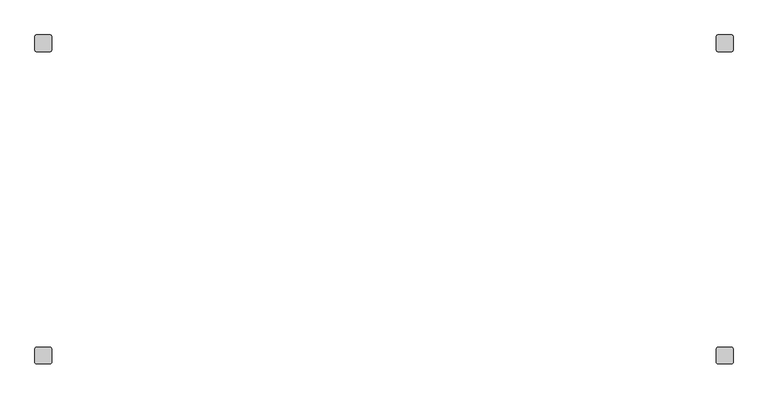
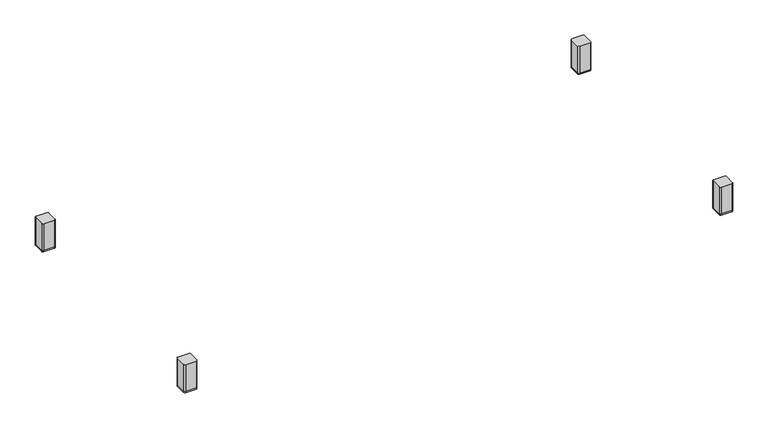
"""IFC4 building model written with IfcOpenShell, lengths in millimetres: furniture geometry, SmithSystem_AM_Storage_Education_Constellate_Stacking_DoubleMidCluster : Upper Shelves + Lower Cubbies."""

import ifcopenshell
import ifcopenshell.guid

model = None  # the IFC model being written
_history = None  # IfcOwnerHistory: only IFC2X3 demands one
_inside = {}  # id of a spatial element -> (the spatial element, [elements in it])
_under = {}  # id of a project, library or spatial element -> (it, [spatial elements below it])
_declared = {}  # id of a project -> (the project, [libraries it declares])
_typed = {}  # id of a type object -> (the type object, [elements of that type])
_made_of = {}  # id of a material, layer set ... -> (it, [elements and type objects made of it])


def new_model(schema):
    """Start an empty IFC model of exactly this schema.

    Asked for "IFC4X3", IfcOpenShell would pick the latest addendum, in which some entities
    have other attributes; the version numbers below select the first issue.
    IFC2X3 requires an IfcOwnerHistory on every rooted entity: one is made here for all.
    """
    global model, _history
    if schema == "IFC4X3":
        model = ifcopenshell.file(schema_version=(4, 3, 0, 0))
    else:
        model = ifcopenshell.file(schema=schema)
    _inside.clear()
    _under.clear()
    _declared.clear()
    _typed.clear()
    _made_of.clear()
    _history = None
    if model.schema == "IFC2X3":
        org = make("IfcOrganization", Name="unknown")
        user = make(
            "IfcPersonAndOrganization",
            ThePerson=make("IfcPerson", FamilyName="unknown"),
            TheOrganization=org,
        )
        app = make(
            "IfcApplication",
            ApplicationDeveloper=org,
            Version="unknown",
            ApplicationFullName="unknown",
            ApplicationIdentifier="unknown",
        )
        _history = make(
            "IfcOwnerHistory",
            OwningUser=user,
            OwningApplication=app,
            ChangeAction="ADDED",
            CreationDate=0,
        )
    return model


def make(cls, **values):
    """One entity of the class cls with the attributes given. An attribute that is None is left unset."""
    return model.create_entity(
        cls, **{name: value for name, value in values.items() if value is not None}
    )


def rooted(cls, **values):
    """An entity with a GlobalId (a new one), such as an element, a storey or a relation."""
    return make(cls, GlobalId=ifcopenshell.guid.new(), OwnerHistory=_history, **values)


def si_unit(unit_type, name, prefix=None):
    """IfcSIUnit, for example si_unit("LENGTHUNIT", "METRE", prefix="MILLI")."""
    return make("IfcSIUnit", UnitType=unit_type, Prefix=prefix, Name=name)


def assignment(units):
    """IfcUnitAssignment: the units of a project."""
    return None if units is None else make("IfcUnitAssignment", Units=units)


def point(xyz):
    """IfcCartesianPoint."""
    return None if xyz is None else make("IfcCartesianPoint", Coordinates=xyz)


def direction(xyz):
    """IfcDirection."""
    return None if xyz is None else make("IfcDirection", DirectionRatios=xyz)


def frame(location, z_axis=None, x_axis=None):
    """IfcAxis2Placement3D, a coordinate frame: its origin and axes. An axis left out is left unset."""
    return make(
        "IfcAxis2Placement3D",
        Location=point(location),
        Axis=direction(z_axis),
        RefDirection=direction(x_axis),
    )


def frame_2d(location, x_axis=None):
    """IfcAxis2Placement2D, a coordinate frame in the plane: its origin and x axis."""
    return make(
        "IfcAxis2Placement2D", Location=point(location), RefDirection=direction(x_axis)
    )


def origin():
    """The frame at (0, 0, 0) with its axes left unset."""
    return frame((0.0, 0.0, 0.0))


def origin_with_axes():
    """The frame at (0, 0, 0) with the z axis (0, 0, 1) and the x axis (1, 0, 0) written out."""
    return frame((0.0, 0.0, 0.0), z_axis=(0.0, 0.0, 1.0), x_axis=(1.0, 0.0, 0.0))


def place(relative_to, where):
    """IfcLocalPlacement: puts the frame where relative to a parent placement (None: the world)."""
    return make(
        "IfcLocalPlacement", PlacementRelTo=relative_to, RelativePlacement=where
    )


def context(
    kind, dimensions, precision=None, world=None, true_north=None, identifier=None
):
    """IfcGeometricRepresentationContext, for example the 3D "Model" context."""
    return make(
        "IfcGeometricRepresentationContext",
        ContextIdentifier=identifier,
        ContextType=kind,
        CoordinateSpaceDimension=dimensions,
        Precision=precision,
        WorldCoordinateSystem=world,
        TrueNorth=true_north,
    )


def project(units=None, contexts=None):
    """IfcProject with its units and contexts."""
    return rooted(
        "IfcProject",
        Name="project",
        RepresentationContexts=contexts,
        UnitsInContext=assignment(units),
    )


def spatial(cls, under=None, at=None, **own):
    """A site, building, storey or space (cls), placed at a placement, below another one or the project."""
    s = rooted(cls, ObjectPlacement=at, **own)
    if under is not None:
        _under.setdefault(under.id(), (under, []))[1].append(s)
    return s


def polyline(points):
    """IfcPolyline through the points."""
    return make("IfcPolyline", Points=[point(p) for p in points])


def circle_curve(where, radius):
    """IfcCircle in the frame where."""
    return make("IfcCircle", Position=where, Radius=radius)


def trimmed(basis, trim1, trim2, sense, master):
    """IfcTrimmedCurve: the piece of a basis curve between two trims."""
    return make(
        "IfcTrimmedCurve",
        BasisCurve=basis,
        Trim1=trim1,
        Trim2=trim2,
        SenseAgreement=sense,
        MasterRepresentation=master,
    )


def segment(curve, same_sense, transition):
    """IfcCompositeCurveSegment."""
    return make(
        "IfcCompositeCurveSegment",
        Transition=transition,
        SameSense=same_sense,
        ParentCurve=curve,
    )


def composite_curve(segments, self_intersect=None):
    """IfcCompositeCurve: segments joined end to end."""
    return make("IfcCompositeCurve", Segments=segments, SelfIntersect=self_intersect)


def outline(outer, holes=None, kind="AREA"):
    """IfcArbitraryClosedProfileDef: a profile drawn as a closed curve; with holes, ...WithVoids."""
    if holes is None:
        return make("IfcArbitraryClosedProfileDef", ProfileType=kind, OuterCurve=outer)
    return make(
        "IfcArbitraryProfileDefWithVoids",
        ProfileType=kind,
        OuterCurve=outer,
        InnerCurves=holes,
    )


def extrude(swept, where, along, depth):
    """IfcExtrudedAreaSolid: the profile swept, set in the frame where, extruded along a direction by depth."""
    return make(
        "IfcExtrudedAreaSolid",
        SweptArea=swept,
        Position=where,
        ExtrudedDirection=direction(along),
        Depth=depth,
    )


def shape(context_of_items, identifier, shape_type, items):
    """IfcShapeRepresentation: the items that make up one representation, for example the "Body"."""
    return make(
        "IfcShapeRepresentation",
        ContextOfItems=context_of_items,
        RepresentationIdentifier=identifier,
        RepresentationType=shape_type,
        Items=items,
    )


def source(mapping_origin, context_of_items, identifier, shape_type, items):
    """IfcRepresentationMap: a shape defined once, which mapped items show again and again."""
    return make(
        "IfcRepresentationMap",
        MappingOrigin=mapping_origin,
        MappedRepresentation=shape(context_of_items, identifier, shape_type, items),
    )


def transform(
    local_origin,
    x_axis=None,
    y_axis=None,
    z_axis=None,
    scale=None,
    scale2=None,
    scale3=None,
    uniform=True,
):
    """IfcCartesianTransformationOperator3D, or its non-uniform kind. x_axis, y_axis, z_axis: its Axis1, 2, 3."""
    if uniform:
        return make(
            "IfcCartesianTransformationOperator3D",
            Axis1=direction(x_axis),
            Axis2=direction(y_axis),
            LocalOrigin=point(local_origin),
            Scale=scale,
            Axis3=direction(z_axis),
        )
    return make(
        "IfcCartesianTransformationOperator3DnonUniform",
        Axis1=direction(x_axis),
        Axis2=direction(y_axis),
        LocalOrigin=point(local_origin),
        Scale=scale,
        Axis3=direction(z_axis),
        Scale2=scale2,
        Scale3=scale3,
    )


def mapped(mapping_source, mapping_target):
    """IfcMappedItem: shows the shape of a source again, moved by a transform."""
    return make(
        "IfcMappedItem", MappingSource=mapping_source, MappingTarget=mapping_target
    )


def made_of(thing, what):
    """Note that an element or type object is made of a material, layer set ...; save() writes the relation."""
    if what is not None:
        _made_of.setdefault(what.id(), (what, []))[1].append(thing)
    return thing


def element(
    cls,
    number,
    at=None,
    inside=None,
    cuts=None,
    type_object=None,
    material=None,
    context=None,
    identifier="Body",
    shape_type=None,
    held_by="IfcProductDefinitionShape",
    body=None,
    shapes=None,
    **own,
):
    """One element of the class cls, such as IfcWall. Its Tag is "e" and its number.

    at: its placement. inside: the storey or other place that contains it. cuts: it is an
    opening in that element (IfcRelVoidsElement). A single representation is given by context,
    identifier, shape_type and body (its items); several are given by shapes. held_by: the class
    of the entity that holds the representations. save() writes the other relations.
    """
    e = rooted(cls, Tag="e%d" % number, ObjectPlacement=at, **own)
    if body is not None:
        shapes = [shape(context, identifier, shape_type, body)]
    if shapes is not None:
        e.Representation = make(held_by, Representations=shapes)
    if inside is not None:
        _inside.setdefault(inside.id(), (inside, []))[1].append(e)
    if cuts is not None:
        rooted(
            "IfcRelVoidsElement", RelatingBuildingElement=cuts, RelatedOpeningElement=e
        )
    if type_object is not None:
        _typed.setdefault(type_object.id(), (type_object, []))[1].append(e)
    return made_of(e, material)


def aggregate(whole, parts):
    """IfcRelAggregates: a whole, such as a stair, and the parts it consists of."""
    return rooted("IfcRelAggregates", RelatingObject=whole, RelatedObjects=parts)


def save(model, path):
    """Write the relations noted so far, then the file.

    IfcRelAggregates (storeys below a building ...), IfcRelContainedInSpatialStructure (elements
    in a storey), IfcRelDefinesByType, IfcRelAssociatesMaterial and IfcRelDeclares: one each for
    every whole, place, type object, material and project.
    """
    for whole, parts in _under.values():
        aggregate(whole, parts)
    for where, things in _inside.values():
        rooted(
            "IfcRelContainedInSpatialStructure",
            RelatedElements=things,
            RelatingStructure=where,
        )
    for kind, things in _typed.values():
        rooted("IfcRelDefinesByType", RelatedObjects=things, RelatingType=kind)
    for what, things in _made_of.values():
        rooted("IfcRelAssociatesMaterial", RelatedObjects=things, RelatingMaterial=what)
    for by, libraries in _declared.values():
        rooted("IfcRelDeclares", RelatingContext=by, RelatedDefinitions=libraries)
    model.write(path)


def furniture_9f49ae1a(model_context):
    return source(origin(), model_context, "Body", "SweptSolid", [
        extrude(outline(composite_curve([segment(polyline([(-528.32, -223.52), (-508.0, -223.52)]), True, "CONTINUOUS"), segment(trimmed(circle_curve(frame_2d((-508.0, -226.06)), 2.54), [point((-508.0, -223.52))], [point((-505.46, -226.06))], False, "CARTESIAN"), True, "CONTINUOUS"), segment(polyline([(-505.46, -226.06), (-505.46, -246.38)]), True, "CONTINUOUS"), segment(trimmed(circle_curve(frame_2d((-508.0, -246.38)), 2.54), [point((-505.46, -246.38))], [point((-508.0, -248.92))], False, "CARTESIAN"), True, "CONTINUOUS"), segment(polyline([(-508.0, -248.92), (-528.32, -248.92)]), True, "CONTINUOUS"), segment(trimmed(circle_curve(frame_2d((-528.32, -246.38)), 2.54), [point((-528.32, -248.92))], [point((-530.86, -246.38))], False, "CARTESIAN"), True, "CONTINUOUS"), segment(polyline([(-530.86, -246.38), (-530.86, -226.06)]), True, "CONTINUOUS"), segment(trimmed(circle_curve(frame_2d((-528.32, -226.06)), 2.54), [point((-530.86, -226.06))], [point((-528.32, -223.52))], False, "CARTESIAN"), True, "CONTINUOUS")], self_intersect=False)), frame((0.0, 0.0, 2.54), z_axis=(0.0, 0.0, 1.0), x_axis=(1.0, 0.0, 0.0)), (0.0, 0.0, 1.0), 54.61),
        extrude(outline(composite_curve([segment(polyline([(530.86, 248.92), (530.86, 228.6)]), True, "CONTINUOUS"), segment(trimmed(circle_curve(frame_2d((528.32, 228.6)), 2.54), [point((530.86, 228.6))], [point((528.32, 226.06))], False, "CARTESIAN"), True, "CONTINUOUS"), segment(polyline([(528.32, 226.06), (508.0, 226.06)]), True, "CONTINUOUS"), segment(trimmed(circle_curve(frame_2d((508.0, 228.6)), 2.54), [point((508.0, 226.06))], [point((505.46, 228.6))], False, "CARTESIAN"), True, "CONTINUOUS"), segment(polyline([(505.46, 228.6), (505.46, 248.92)]), True, "CONTINUOUS"), segment(trimmed(circle_curve(frame_2d((508.0, 248.92)), 2.54), [point((505.46, 248.92))], [point((508.0, 251.46))], False, "CARTESIAN"), True, "CONTINUOUS"), segment(polyline([(508.0, 251.46), (528.32, 251.46)]), True, "CONTINUOUS"), segment(trimmed(circle_curve(frame_2d((528.32, 248.92)), 2.54), [point((528.32, 251.46))], [point((530.86, 248.92))], False, "CARTESIAN"), True, "CONTINUOUS")], self_intersect=False)), frame((0.0, 0.0, 2.54), z_axis=(0.0, 0.0, 1.0), x_axis=(1.0, 0.0, 0.0)), (0.0, 0.0, 1.0), 54.61),
        extrude(outline(composite_curve([segment(trimmed(circle_curve(frame_2d((528.32, -226.06)), 2.54), [point((528.32, -223.52))], [point((530.86, -226.06))], False, "CARTESIAN"), True, "CONTINUOUS"), segment(polyline([(530.86, -226.06), (530.86, -246.38)]), True, "CONTINUOUS"), segment(trimmed(circle_curve(frame_2d((528.32, -246.38)), 2.54), [point((530.86, -246.38))], [point((528.32, -248.92))], False, "CARTESIAN"), True, "CONTINUOUS"), segment(polyline([(528.32, -248.92), (508.0, -248.92)]), True, "CONTINUOUS"), segment(trimmed(circle_curve(frame_2d((508.0, -246.38)), 2.54), [point((508.0, -248.92))], [point((505.46, -246.38))], False, "CARTESIAN"), True, "CONTINUOUS"), segment(polyline([(505.46, -246.38), (505.46, -226.06)]), True, "CONTINUOUS"), segment(trimmed(circle_curve(frame_2d((508.0, -226.06)), 2.54), [point((505.46, -226.06))], [point((508.0, -223.52))], False, "CARTESIAN"), True, "CONTINUOUS"), segment(polyline([(508.0, -223.52), (528.32, -223.52)]), True, "CONTINUOUS")], self_intersect=False)), frame((0.0, 0.0, 2.54), z_axis=(0.0, 0.0, 1.0), x_axis=(1.0, 0.0, 0.0)), (0.0, 0.0, 1.0), 54.61),
        extrude(outline(composite_curve([segment(trimmed(circle_curve(frame_2d((-528.32, 248.92)), 2.54), [point((-530.86, 248.92))], [point((-528.32, 251.46))], False, "CARTESIAN"), True, "CONTINUOUS"), segment(polyline([(-528.32, 251.46), (-508.0, 251.46)]), True, "CONTINUOUS"), segment(trimmed(circle_curve(frame_2d((-508.0, 248.92)), 2.54), [point((-508.0, 251.46))], [point((-505.46, 248.92))], False, "CARTESIAN"), True, "CONTINUOUS"), segment(polyline([(-505.46, 248.92), (-505.46, 228.6)]), True, "CONTINUOUS"), segment(trimmed(circle_curve(frame_2d((-508.0, 228.6)), 2.54), [point((-505.46, 228.6))], [point((-508.0, 226.06))], False, "CARTESIAN"), True, "CONTINUOUS"), segment(polyline([(-508.0, 226.06), (-528.32, 226.06)]), True, "CONTINUOUS"), segment(trimmed(circle_curve(frame_2d((-528.32, 228.6)), 2.54), [point((-528.32, 226.06))], [point((-530.86, 228.6))], False, "CARTESIAN"), True, "CONTINUOUS"), segment(polyline([(-530.86, 228.6), (-530.86, 248.92)]), True, "CONTINUOUS")], self_intersect=False)), frame((0.0, 0.0, 2.54), z_axis=(0.0, 0.0, 1.0), x_axis=(1.0, 0.0, 0.0)), (0.0, 0.0, 1.0), 54.61),
        extrude(outline(composite_curve([segment(trimmed(circle_curve(frame_2d((-508.0, -226.06)), 2.54), [point((-508.0, -223.52))], [point((-505.46, -226.06))], False, "CARTESIAN"), True, "CONTINUOUS"), segment(polyline([(-505.46, -226.06), (-505.46, -246.38)]), True, "CONTINUOUS"), segment(trimmed(circle_curve(frame_2d((-508.0, -246.38)), 2.54), [point((-505.46, -246.38))], [point((-508.0, -248.92))], False, "CARTESIAN"), True, "CONTINUOUS"), segment(polyline([(-508.0, -248.92), (-528.32, -248.92)]), True, "CONTINUOUS"), segment(trimmed(circle_curve(frame_2d((-528.32, -246.38)), 2.54), [point((-528.32, -248.92))], [point((-530.86, -246.38))], False, "CARTESIAN"), True, "CONTINUOUS"), segment(polyline([(-530.86, -246.38), (-530.86, -226.06)]), True, "CONTINUOUS"), segment(trimmed(circle_curve(frame_2d((-528.32, -226.06)), 2.54), [point((-530.86, -226.06))], [point((-528.32, -223.52))], False, "CARTESIAN"), True, "CONTINUOUS"), segment(polyline([(-528.32, -223.52), (-508.0, -223.52)]), True, "CONTINUOUS")], self_intersect=False)), origin_with_axes(), (0.0, 0.0, 1.0), 2.54),
        extrude(outline(composite_curve([segment(polyline([(508.0, -223.52), (528.32, -223.52)]), True, "CONTINUOUS"), segment(trimmed(circle_curve(frame_2d((528.32, -226.06)), 2.54), [point((528.32, -223.52))], [point((530.86, -226.06))], False, "CARTESIAN"), True, "CONTINUOUS"), segment(polyline([(530.86, -226.06), (530.86, -246.38)]), True, "CONTINUOUS"), segment(trimmed(circle_curve(frame_2d((528.32, -246.38)), 2.54), [point((530.86, -246.38))], [point((528.32, -248.92))], False, "CARTESIAN"), True, "CONTINUOUS"), segment(polyline([(528.32, -248.92), (508.0, -248.92)]), True, "CONTINUOUS"), segment(trimmed(circle_curve(frame_2d((508.0, -246.38)), 2.54), [point((508.0, -248.92))], [point((505.46, -246.38))], False, "CARTESIAN"), True, "CONTINUOUS"), segment(polyline([(505.46, -246.38), (505.46, -226.06)]), True, "CONTINUOUS"), segment(trimmed(circle_curve(frame_2d((508.0, -226.06)), 2.54), [point((505.46, -226.06))], [point((508.0, -223.52))], False, "CARTESIAN"), True, "CONTINUOUS")], self_intersect=False)), origin_with_axes(), (0.0, 0.0, 1.0), 2.54),
        extrude(outline(composite_curve([segment(trimmed(circle_curve(frame_2d((-508.0, 248.92)), 2.54), [point((-508.0, 251.46))], [point((-505.46, 248.92))], False, "CARTESIAN"), True, "CONTINUOUS"), segment(polyline([(-505.46, 248.92), (-505.46, 228.6)]), True, "CONTINUOUS"), segment(trimmed(circle_curve(frame_2d((-508.0, 228.6)), 2.54), [point((-505.46, 228.6))], [point((-508.0, 226.06))], False, "CARTESIAN"), True, "CONTINUOUS"), segment(polyline([(-508.0, 226.06), (-528.32, 226.06)]), True, "CONTINUOUS"), segment(trimmed(circle_curve(frame_2d((-528.32, 228.6)), 2.54), [point((-528.32, 226.06))], [point((-530.86, 228.6))], False, "CARTESIAN"), True, "CONTINUOUS"), segment(polyline([(-530.86, 228.6), (-530.86, 248.92)]), True, "CONTINUOUS"), segment(trimmed(circle_curve(frame_2d((-528.32, 248.92)), 2.54), [point((-530.86, 248.92))], [point((-528.32, 251.46))], False, "CARTESIAN"), True, "CONTINUOUS"), segment(polyline([(-528.32, 251.46), (-508.0, 251.46)]), True, "CONTINUOUS")], self_intersect=False)), origin_with_axes(), (0.0, 0.0, 1.0), 2.54),
        extrude(outline(composite_curve([segment(polyline([(508.0, 251.46), (528.32, 251.46)]), True, "CONTINUOUS"), segment(trimmed(circle_curve(frame_2d((528.32, 248.92)), 2.54), [point((528.32, 251.46))], [point((530.86, 248.92))], False, "CARTESIAN"), True, "CONTINUOUS"), segment(polyline([(530.86, 248.92), (530.86, 228.6)]), True, "CONTINUOUS"), segment(trimmed(circle_curve(frame_2d((528.32, 228.6)), 2.54), [point((530.86, 228.6))], [point((528.32, 226.06))], False, "CARTESIAN"), True, "CONTINUOUS"), segment(polyline([(528.32, 226.06), (508.0, 226.06)]), True, "CONTINUOUS"), segment(trimmed(circle_curve(frame_2d((508.0, 228.6)), 2.54), [point((508.0, 226.06))], [point((505.46, 228.6))], False, "CARTESIAN"), True, "CONTINUOUS"), segment(polyline([(505.46, 228.6), (505.46, 248.92)]), True, "CONTINUOUS"), segment(trimmed(circle_curve(frame_2d((508.0, 248.92)), 2.54), [point((505.46, 248.92))], [point((508.0, 251.46))], False, "CARTESIAN"), True, "CONTINUOUS")], self_intersect=False)), origin_with_axes(), (0.0, 0.0, 1.0), 2.54),
    ])


if __name__ == "__main__":
    model = new_model("IFC4")
    model_context = context("Model", 3, world=origin())
    ifc_project = project(units=[si_unit("LENGTHUNIT", "METRE", prefix="MILLI")], contexts=[model_context])
    site = spatial("IfcSite", under=ifc_project)
    building = spatial("IfcBuilding", under=site)
    placement = place(None, origin())
    furniture_shape = furniture_9f49ae1a(model_context)
    element("IfcFurniture", 1, ObjectType="SmithSystem_AM_Storage_Education_Constellate_Stacking_DoubleMidCluster : Upper Shelves + Lower Cubbies", at=placement, inside=building, context=model_context, shape_type="MappedRepresentation", body=[
        mapped(furniture_shape, transform((0.0, 0.0, 0.0), x_axis=(1.0, 0.0, 0.0), y_axis=(0.0, 1.0, 0.0), z_axis=(0.0, 0.0, 1.0))),
    ])
    save(model, "model.ifc")
